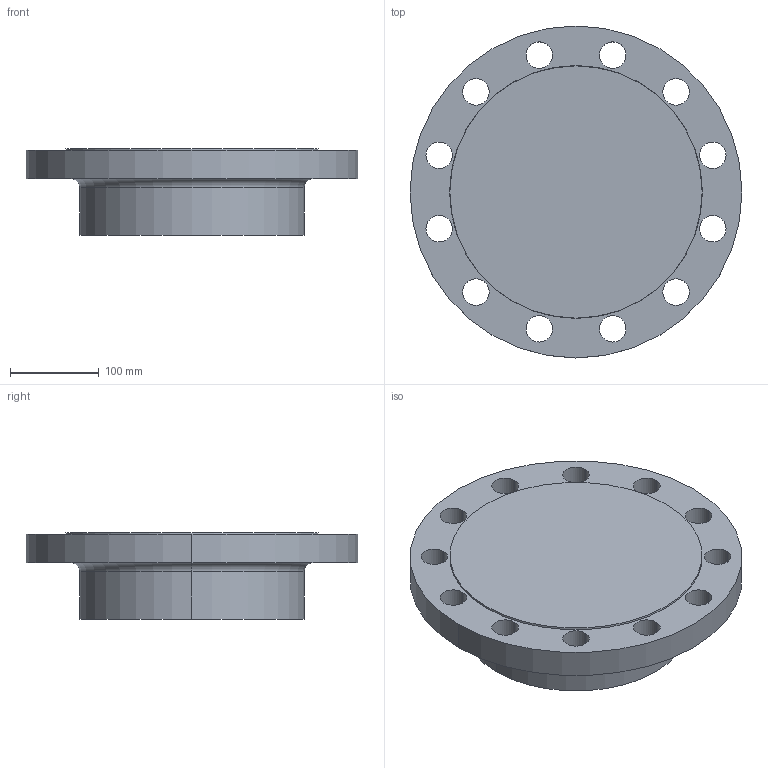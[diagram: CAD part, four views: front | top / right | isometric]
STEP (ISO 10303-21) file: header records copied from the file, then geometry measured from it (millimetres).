
FILE_DESCRIPTION (( 'STEP AP214' ), '1' );
FILE_NAME ('PN40 DN200 Type 21(i) - Type B Face.STEP', '2019-01-05T02:05:42', ( '' ), ( '' ), 'SwSTEP 2.0', 'SolidWorks 2019', '' );
FILE_SCHEMA (( 'AUTOMOTIVE_DESIGN' ));
Length unit declared in the file: millimetre
Products named in the file (1): PN40 DN200 Type 21(i) - Type B Face
Bounding box: 375 x 375 x 98 mm (x, y, z)
Volume: 6651115.6 mm3; surface area: 327012.7 mm2
Topology: 1 solids, 1 shells, 36 faces, 94 edges, 62 vertices
Faces by surface type: cylinder 28, plane 4, torus 2, cone 2
Entity records: 1228 total; most frequent: DIRECTION 232, CARTESIAN_POINT 193, ORIENTED_EDGE 188, AXIS2_PLACEMENT_3D 101, EDGE_CURVE 94, CIRCLE 64, VERTEX_POINT 62, EDGE_LOOP 62
